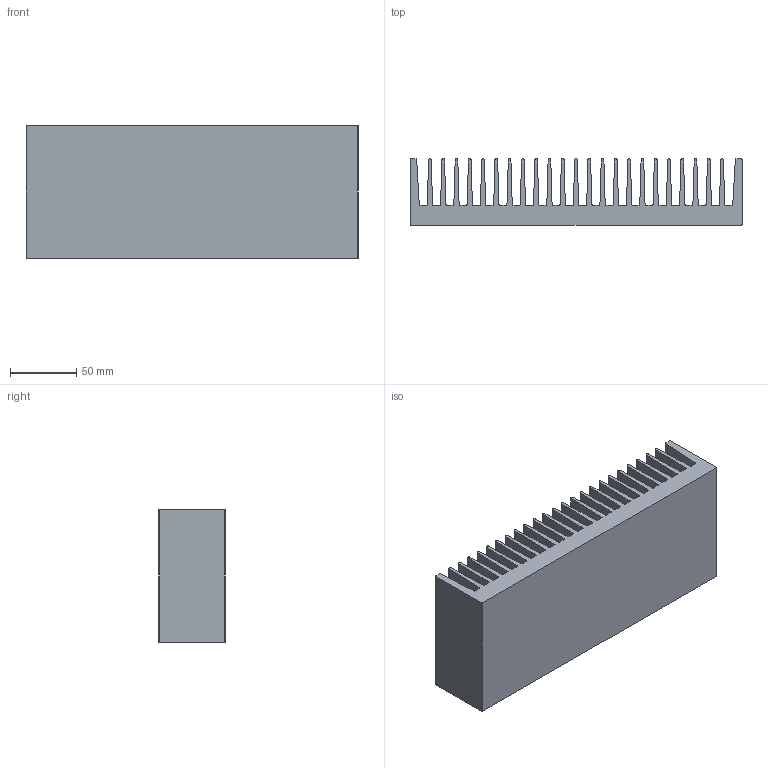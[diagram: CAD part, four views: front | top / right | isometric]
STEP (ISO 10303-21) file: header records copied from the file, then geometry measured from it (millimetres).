
FILE_DESCRIPTION (( 'STEP AP214' ), '1' );
FILE_NAME ('PR372.STEP', '2013-06-13T17:58:42', ( '' ), ( '' ), 'SwSTEP 2.0', 'SolidWorks 2013', '' );
FILE_SCHEMA (( 'AUTOMOTIVE_DESIGN' ));
Length unit declared in the file: millimetre
Products named in the file (1): PR372
Bounding box: 250 x 50 x 100 mm (x, y, z)
Volume: 655455.6 mm3; surface area: 233131.4 mm2
Topology: 1 solids, 1 shells, 156 faces, 462 edges, 308 vertices
Faces by surface type: plane 79, cylinder 77
Entity records: 5294 total; most frequent: DIRECTION 930, CARTESIAN_POINT 927, ORIENTED_EDGE 924, EDGE_CURVE 462, AXIS2_PLACEMENT_3D 311, VERTEX_POINT 308, VECTOR 308, LINE 308
